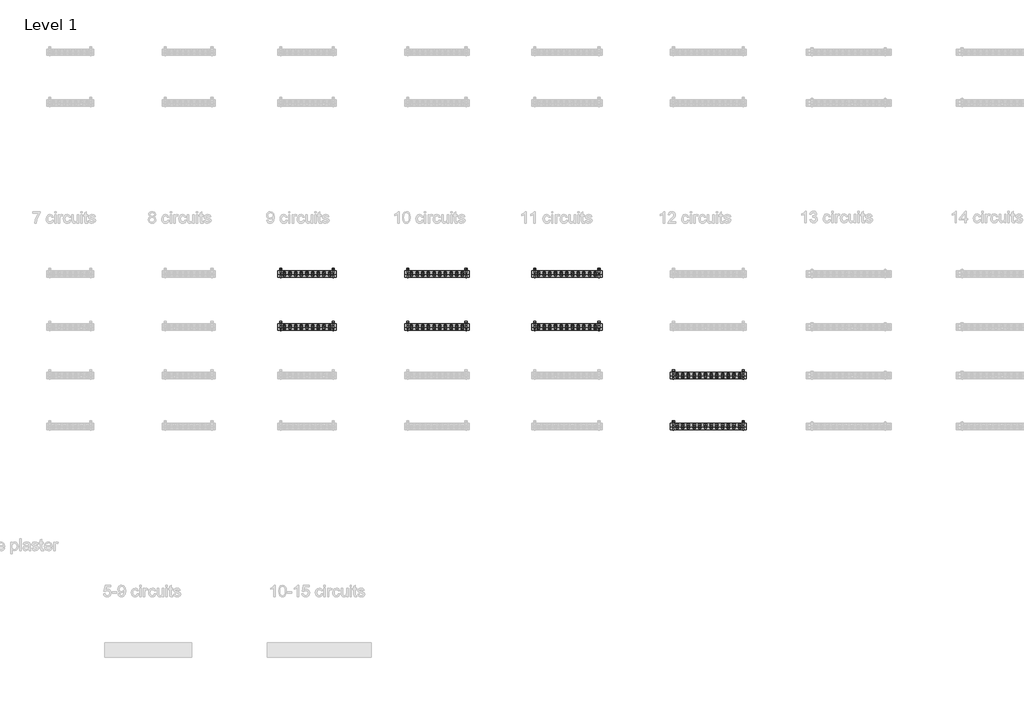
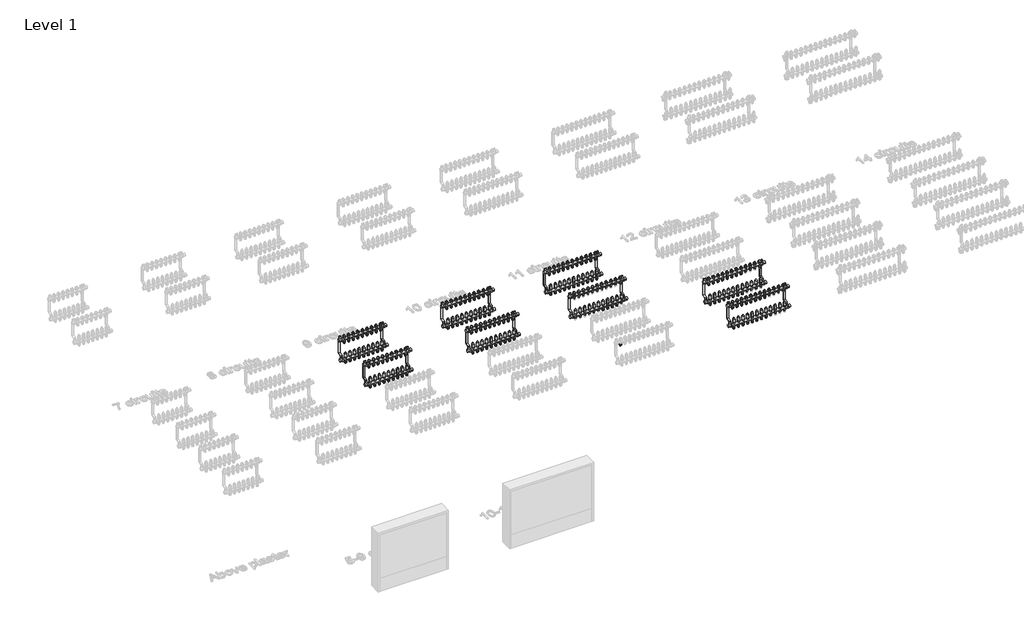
# One storey, part 4 of 23: 135 pipe fittings, 8 valves.
"""IFC4 building model written with IfcOpenShell, lengths in millimetres."""

from ifc_helpers import new_model, si_unit, origin, place, context, project, spatial, transform, mapped, element, save
from components import pipe_fitting_03c6499f, valve_f094e97b, valve_0359cbb0, valve_3285f891, valve_bdae45cc, valve_7e3f3941, valve_882e19a6, valve_5647343c, valve_f26d3ca9, valve_25ad0012, valve_28fdf4a6, valve_a7423dcf, valve_d379a65c, valve_24eee51e

model = new_model("IFC4")

# Units and contexts
model_context = context("Model", 3, world=origin())
ifc_project = project(units=[si_unit("LENGTHUNIT", "METRE", prefix="MILLI")], contexts=[model_context])

# Site, building, storey
site = spatial("IfcSite", under=ifc_project)
building = spatial("IfcBuilding", under=site)
storey = spatial("IfcBuildingStorey", under=building, Name="Level 1", Elevation=0.0)

# Pipe fittings
placement = place(None, origin())
pipe_fitting_shape = pipe_fitting_03c6499f(model_context)
element("IfcPipeFitting", 1, ObjectType="Euroconus screwing for multilayer pipes - Manifold FT : Euroconus screwing for multilayer pipes - Manifold FT", at=placement, inside=storey, context=model_context, shape_type="MappedRepresentation", body=[
    mapped(pipe_fitting_shape, transform((8575.9796862, -1164.6959314, 62.88733), x_axis=(0.0, 0.0, -1.0), y_axis=(0.0, 1.0000000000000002, 0.0), z_axis=(1.0000000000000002, 0.0, 0.0))),
])
element("IfcPipeFitting", 2, ObjectType="Euroconus screwing for multilayer pipes - Manifold FT : Euroconus screwing for multilayer pipes - Manifold FT", at=placement, inside=storey, context=model_context, shape_type="MappedRepresentation", body=[
    mapped(pipe_fitting_shape, transform((8526.9796862, -1164.6959314, 62.88733), x_axis=(0.0, 0.0, -1.0), y_axis=(0.0, 1.0000000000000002, 0.0), z_axis=(1.0000000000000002, 0.0, 0.0))),
])
element("IfcPipeFitting", 3, ObjectType="Euroconus screwing for multilayer pipes - Manifold FT : Euroconus screwing for multilayer pipes - Manifold FT", at=placement, inside=storey, context=model_context, shape_type="MappedRepresentation", body=[
    mapped(pipe_fitting_shape, transform((8477.9796862, -1164.6959314, 62.88733), x_axis=(0.0, 0.0, -1.0), y_axis=(0.0, 1.0000000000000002, 0.0), z_axis=(1.0000000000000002, 0.0, 0.0))),
])
element("IfcPipeFitting", 4, ObjectType="Euroconus screwing for multilayer pipes - Manifold FT : Euroconus screwing for multilayer pipes - Manifold FT", at=placement, inside=storey, context=model_context, shape_type="MappedRepresentation", body=[
    mapped(pipe_fitting_shape, transform((8428.9796862, -1164.6959314, 62.88733), x_axis=(0.0, 0.0, -1.0), y_axis=(0.0, 1.0000000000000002, 0.0), z_axis=(1.0000000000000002, 0.0, 0.0))),
])
element("IfcPipeFitting", 5, ObjectType="Euroconus screwing for multilayer pipes - Manifold FT : Euroconus screwing for multilayer pipes - Manifold FT", at=placement, inside=storey, context=model_context, shape_type="MappedRepresentation", body=[
    mapped(pipe_fitting_shape, transform((8379.9796862, -1164.6959314, 62.88733), x_axis=(0.0, 0.0, -1.0), y_axis=(0.0, 1.0000000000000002, 0.0), z_axis=(1.0000000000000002, 0.0, 0.0))),
])
element("IfcPipeFitting", 6, ObjectType="Euroconus screwing for multilayer pipes - Manifold FT : Euroconus screwing for multilayer pipes - Manifold FT", at=placement, inside=storey, context=model_context, shape_type="MappedRepresentation", body=[
    mapped(pipe_fitting_shape, transform((8330.9796862, -1164.6959314, 62.88733), x_axis=(0.0, 0.0, -1.0), y_axis=(0.0, 1.0000000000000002, 0.0), z_axis=(1.0000000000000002, 0.0, 0.0))),
])
element("IfcPipeFitting", 7, ObjectType="Euroconus screwing for multilayer pipes - Manifold FT : Euroconus screwing for multilayer pipes - Manifold FT", at=placement, inside=storey, context=model_context, shape_type="MappedRepresentation", body=[
    mapped(pipe_fitting_shape, transform((8281.9796862, -1164.6959314, 62.88733), x_axis=(0.0, 0.0, -1.0), y_axis=(0.0, 1.0000000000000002, 0.0), z_axis=(1.0000000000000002, 0.0, 0.0))),
])
element("IfcPipeFitting", 8, ObjectType="Euroconus screwing for multilayer pipes - Manifold FT : Euroconus screwing for multilayer pipes - Manifold FT", at=placement, inside=storey, context=model_context, shape_type="MappedRepresentation", body=[
    mapped(pipe_fitting_shape, transform((8624.9796862, -1164.6959314, 62.88733), x_axis=(0.0, 0.0, -1.0), y_axis=(0.0, 1.0000000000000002, 0.0), z_axis=(1.0000000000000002, 0.0, 0.0))),
])
element("IfcPipeFitting", 9, ObjectType="Euroconus screwing for multilayer pipes - Manifold FT : Euroconus screwing for multilayer pipes - Manifold FT", at=placement, inside=storey, context=model_context, shape_type="MappedRepresentation", body=[
    mapped(pipe_fitting_shape, transform((8575.9796862, -1139.6959314, 272.88733), x_axis=(0.0, 0.0, -1.0), y_axis=(0.0, 1.0000000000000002, 0.0), z_axis=(1.0000000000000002, 0.0, 0.0))),
])
element("IfcPipeFitting", 10, ObjectType="Euroconus screwing for multilayer pipes - Manifold FT : Euroconus screwing for multilayer pipes - Manifold FT", at=placement, inside=storey, context=model_context, shape_type="MappedRepresentation", body=[
    mapped(pipe_fitting_shape, transform((8526.9796862, -1139.6959314, 272.88733), x_axis=(0.0, 0.0, -1.0), y_axis=(0.0, 1.0000000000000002, 0.0), z_axis=(1.0000000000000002, 0.0, 0.0))),
])
element("IfcPipeFitting", 11, ObjectType="Euroconus screwing for multilayer pipes - Manifold FT : Euroconus screwing for multilayer pipes - Manifold FT", at=placement, inside=storey, context=model_context, shape_type="MappedRepresentation", body=[
    mapped(pipe_fitting_shape, transform((8477.9796862, -1139.6959314, 272.88733), x_axis=(0.0, 0.0, -1.0), y_axis=(0.0, 1.0000000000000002, 0.0), z_axis=(1.0000000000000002, 0.0, 0.0))),
])
element("IfcPipeFitting", 12, ObjectType="Euroconus screwing for multilayer pipes - Manifold FT : Euroconus screwing for multilayer pipes - Manifold FT", at=placement, inside=storey, context=model_context, shape_type="MappedRepresentation", body=[
    mapped(pipe_fitting_shape, transform((8428.9796862, -1139.6959314, 272.88733), x_axis=(0.0, 0.0, -1.0), y_axis=(0.0, 1.0000000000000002, 0.0), z_axis=(1.0000000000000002, 0.0, 0.0))),
])
element("IfcPipeFitting", 13, ObjectType="Euroconus screwing for multilayer pipes - Manifold FT : Euroconus screwing for multilayer pipes - Manifold FT", at=placement, inside=storey, context=model_context, shape_type="MappedRepresentation", body=[
    mapped(pipe_fitting_shape, transform((8379.9796862, -1139.6959314, 272.88733), x_axis=(0.0, 0.0, -1.0), y_axis=(0.0, 1.0000000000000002, 0.0), z_axis=(1.0000000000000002, 0.0, 0.0))),
])
element("IfcPipeFitting", 14, ObjectType="Euroconus screwing for multilayer pipes - Manifold FT : Euroconus screwing for multilayer pipes - Manifold FT", at=placement, inside=storey, context=model_context, shape_type="MappedRepresentation", body=[
    mapped(pipe_fitting_shape, transform((8330.9796862, -1139.6959314, 272.88733), x_axis=(0.0, 0.0, -1.0), y_axis=(0.0, 1.0000000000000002, 0.0), z_axis=(1.0000000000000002, 0.0, 0.0))),
])
element("IfcPipeFitting", 15, ObjectType="Euroconus screwing for multilayer pipes - Manifold FT : Euroconus screwing for multilayer pipes - Manifold FT", at=placement, inside=storey, context=model_context, shape_type="MappedRepresentation", body=[
    mapped(pipe_fitting_shape, transform((8281.9796862, -1139.6959314, 272.88733), x_axis=(0.0, 0.0, -1.0), y_axis=(0.0, 1.0000000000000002, 0.0), z_axis=(1.0000000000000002, 0.0, 0.0))),
])
element("IfcPipeFitting", 16, ObjectType="Euroconus screwing for multilayer pipes - Manifold FT : Euroconus screwing for multilayer pipes - Manifold FT", at=placement, inside=storey, context=model_context, shape_type="MappedRepresentation", body=[
    mapped(pipe_fitting_shape, transform((8624.9796862, -1139.6959314, 272.88733), x_axis=(0.0, 0.0, -1.0), y_axis=(0.0, 1.0000000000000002, 0.0), z_axis=(1.0000000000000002, 0.0, 0.0))),
])
element("IfcPipeFitting", 17, ObjectType="Euroconus screwing for multilayer pipes - Manifold FT : Euroconus screwing for multilayer pipes - Manifold FT", at=placement, inside=storey, context=model_context, shape_type="MappedRepresentation", body=[
    mapped(pipe_fitting_shape, transform((8232.9796862, -1164.6959314, 62.88733), x_axis=(0.0, 0.0, -1.0), y_axis=(0.0, 1.0000000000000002, 0.0), z_axis=(1.0000000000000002, 0.0, 0.0))),
])
element("IfcPipeFitting", 18, ObjectType="Euroconus screwing for multilayer pipes - Manifold FT : Euroconus screwing for multilayer pipes - Manifold FT", at=placement, inside=storey, context=model_context, shape_type="MappedRepresentation", body=[
    mapped(pipe_fitting_shape, transform((8232.9796862, -1139.6959314, 272.88733), x_axis=(0.0, 0.0, -1.0), y_axis=(0.0, 1.0000000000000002, 0.0), z_axis=(1.0000000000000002, 0.0, 0.0))),
])
element("IfcPipeFitting", 19, ObjectType="Euroconus screwing for multilayer pipes - Manifold FT : Euroconus screwing for multilayer pipes - Manifold FT", at=placement, inside=storey, context=model_context, shape_type="MappedRepresentation", body=[
    mapped(pipe_fitting_shape, transform((9725.8685751, -1164.6959314, 62.88733), x_axis=(0.0, 0.0, -1.0), y_axis=(0.0, 1.0000000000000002, 0.0), z_axis=(1.0000000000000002, 0.0, 0.0))),
])
element("IfcPipeFitting", 20, ObjectType="Euroconus screwing for multilayer pipes - Manifold FT : Euroconus screwing for multilayer pipes - Manifold FT", at=placement, inside=storey, context=model_context, shape_type="MappedRepresentation", body=[
    mapped(pipe_fitting_shape, transform((9676.7574639, -1164.6959314, 62.88733), x_axis=(0.0, 0.0, -1.0), y_axis=(0.0, 1.0000000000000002, 0.0), z_axis=(1.0000000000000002, 0.0, 0.0))),
])
element("IfcPipeFitting", 21, ObjectType="Euroconus screwing for multilayer pipes - Manifold FT : Euroconus screwing for multilayer pipes - Manifold FT", at=placement, inside=storey, context=model_context, shape_type="MappedRepresentation", body=[
    mapped(pipe_fitting_shape, transform((9627.6463528, -1164.6959314, 62.88733), x_axis=(0.0, 0.0, -1.0), y_axis=(0.0, 1.0000000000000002, 0.0), z_axis=(1.0000000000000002, 0.0, 0.0))),
])
element("IfcPipeFitting", 22, ObjectType="Euroconus screwing for multilayer pipes - Manifold FT : Euroconus screwing for multilayer pipes - Manifold FT", at=placement, inside=storey, context=model_context, shape_type="MappedRepresentation", body=[
    mapped(pipe_fitting_shape, transform((9578.5352417, -1164.6959314, 62.88733), x_axis=(0.0, 0.0, -1.0), y_axis=(0.0, 1.0000000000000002, 0.0), z_axis=(1.0000000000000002, 0.0, 0.0))),
])
element("IfcPipeFitting", 23, ObjectType="Euroconus screwing for multilayer pipes - Manifold FT : Euroconus screwing for multilayer pipes - Manifold FT", at=placement, inside=storey, context=model_context, shape_type="MappedRepresentation", body=[
    mapped(pipe_fitting_shape, transform((9529.4241306, -1164.6959314, 62.88733), x_axis=(0.0, 0.0, -1.0), y_axis=(0.0, 1.0000000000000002, 0.0), z_axis=(1.0000000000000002, 0.0, 0.0))),
])
element("IfcPipeFitting", 24, ObjectType="Euroconus screwing for multilayer pipes - Manifold FT : Euroconus screwing for multilayer pipes - Manifold FT", at=placement, inside=storey, context=model_context, shape_type="MappedRepresentation", body=[
    mapped(pipe_fitting_shape, transform((9480.3130195, -1164.6959314, 62.88733), x_axis=(0.0, 0.0, -1.0), y_axis=(0.0, 1.0000000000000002, 0.0), z_axis=(1.0000000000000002, 0.0, 0.0))),
])
element("IfcPipeFitting", 25, ObjectType="Euroconus screwing for multilayer pipes - Manifold FT : Euroconus screwing for multilayer pipes - Manifold FT", at=placement, inside=storey, context=model_context, shape_type="MappedRepresentation", body=[
    mapped(pipe_fitting_shape, transform((9431.2019084, -1164.6959314, 62.88733), x_axis=(0.0, 0.0, -1.0), y_axis=(0.0, 1.0000000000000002, 0.0), z_axis=(1.0000000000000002, 0.0, 0.0))),
])
element("IfcPipeFitting", 26, ObjectType="Euroconus screwing for multilayer pipes - Manifold FT : Euroconus screwing for multilayer pipes - Manifold FT", at=placement, inside=storey, context=model_context, shape_type="MappedRepresentation", body=[
    mapped(pipe_fitting_shape, transform((9382.0907973, -1164.6959314, 62.88733), x_axis=(0.0, 0.0, -1.0), y_axis=(0.0, 1.0000000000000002, 0.0), z_axis=(1.0000000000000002, 0.0, 0.0))),
])
element("IfcPipeFitting", 27, ObjectType="Euroconus screwing for multilayer pipes - Manifold FT : Euroconus screwing for multilayer pipes - Manifold FT", at=placement, inside=storey, context=model_context, shape_type="MappedRepresentation", body=[
    mapped(pipe_fitting_shape, transform((9774.9796862, -1164.6959314, 62.88733), x_axis=(0.0, 0.0, -1.0), y_axis=(0.0, 1.0000000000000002, 0.0), z_axis=(1.0000000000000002, 0.0, 0.0))),
])
element("IfcPipeFitting", 28, ObjectType="Euroconus screwing for multilayer pipes - Manifold FT : Euroconus screwing for multilayer pipes - Manifold FT", at=placement, inside=storey, context=model_context, shape_type="MappedRepresentation", body=[
    mapped(pipe_fitting_shape, transform((9725.8685751, -1139.6959314, 272.88733), x_axis=(0.0, 0.0, -1.0), y_axis=(0.0, 1.0000000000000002, 0.0), z_axis=(1.0000000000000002, 0.0, 0.0))),
])
element("IfcPipeFitting", 29, ObjectType="Euroconus screwing for multilayer pipes - Manifold FT : Euroconus screwing for multilayer pipes - Manifold FT", at=placement, inside=storey, context=model_context, shape_type="MappedRepresentation", body=[
    mapped(pipe_fitting_shape, transform((9676.7574639, -1139.6959314, 272.88733), x_axis=(0.0, 0.0, -1.0), y_axis=(0.0, 1.0000000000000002, 0.0), z_axis=(1.0000000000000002, 0.0, 0.0))),
])
element("IfcPipeFitting", 30, ObjectType="Euroconus screwing for multilayer pipes - Manifold FT : Euroconus screwing for multilayer pipes - Manifold FT", at=placement, inside=storey, context=model_context, shape_type="MappedRepresentation", body=[
    mapped(pipe_fitting_shape, transform((9627.6463528, -1139.6959314, 272.88733), x_axis=(0.0, 0.0, -1.0), y_axis=(0.0, 1.0000000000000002, 0.0), z_axis=(1.0000000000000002, 0.0, 0.0))),
])
element("IfcPipeFitting", 31, ObjectType="Euroconus screwing for multilayer pipes - Manifold FT : Euroconus screwing for multilayer pipes - Manifold FT", at=placement, inside=storey, context=model_context, shape_type="MappedRepresentation", body=[
    mapped(pipe_fitting_shape, transform((9578.5352417, -1139.6959314, 272.88733), x_axis=(0.0, 0.0, -1.0), y_axis=(0.0, 1.0000000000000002, 0.0), z_axis=(1.0000000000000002, 0.0, 0.0))),
])
element("IfcPipeFitting", 32, ObjectType="Euroconus screwing for multilayer pipes - Manifold FT : Euroconus screwing for multilayer pipes - Manifold FT", at=placement, inside=storey, context=model_context, shape_type="MappedRepresentation", body=[
    mapped(pipe_fitting_shape, transform((9529.4241306, -1139.6959314, 272.88733), x_axis=(0.0, 0.0, -1.0), y_axis=(0.0, 1.0000000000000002, 0.0), z_axis=(1.0000000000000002, 0.0, 0.0))),
])
element("IfcPipeFitting", 33, ObjectType="Euroconus screwing for multilayer pipes - Manifold FT : Euroconus screwing for multilayer pipes - Manifold FT", at=placement, inside=storey, context=model_context, shape_type="MappedRepresentation", body=[
    mapped(pipe_fitting_shape, transform((9480.3130195, -1139.6959314, 272.88733), x_axis=(0.0, 0.0, -1.0), y_axis=(0.0, 1.0000000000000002, 0.0), z_axis=(1.0000000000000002, 0.0, 0.0))),
])
element("IfcPipeFitting", 34, ObjectType="Euroconus screwing for multilayer pipes - Manifold FT : Euroconus screwing for multilayer pipes - Manifold FT", at=placement, inside=storey, context=model_context, shape_type="MappedRepresentation", body=[
    mapped(pipe_fitting_shape, transform((9431.2019084, -1139.6959314, 272.88733), x_axis=(0.0, 0.0, -1.0), y_axis=(0.0, 1.0000000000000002, 0.0), z_axis=(1.0000000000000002, 0.0, 0.0))),
])
element("IfcPipeFitting", 35, ObjectType="Euroconus screwing for multilayer pipes - Manifold FT : Euroconus screwing for multilayer pipes - Manifold FT", at=placement, inside=storey, context=model_context, shape_type="MappedRepresentation", body=[
    mapped(pipe_fitting_shape, transform((9382.0907973, -1139.6959314, 272.88733), x_axis=(0.0, 0.0, -1.0), y_axis=(0.0, 1.0000000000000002, 0.0), z_axis=(1.0000000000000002, 0.0, 0.0))),
])
element("IfcPipeFitting", 36, ObjectType="Euroconus screwing for multilayer pipes - Manifold FT : Euroconus screwing for multilayer pipes - Manifold FT", at=placement, inside=storey, context=model_context, shape_type="MappedRepresentation", body=[
    mapped(pipe_fitting_shape, transform((9774.9796862, -1139.6959314, 272.88733), x_axis=(0.0, 0.0, -1.0), y_axis=(0.0, 1.0000000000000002, 0.0), z_axis=(1.0000000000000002, 0.0, 0.0))),
])
element("IfcPipeFitting", 37, ObjectType="Euroconus screwing for multilayer pipes - Manifold FT : Euroconus screwing for multilayer pipes - Manifold FT", at=placement, inside=storey, context=model_context, shape_type="MappedRepresentation", body=[
    mapped(pipe_fitting_shape, transform((9332.9796862, -1164.6959314, 62.88733), x_axis=(0.0, 0.0, -1.0), y_axis=(0.0, 1.0000000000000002, 0.0), z_axis=(1.0000000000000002, 0.0, 0.0))),
])
element("IfcPipeFitting", 38, ObjectType="Euroconus screwing for multilayer pipes - Manifold FT : Euroconus screwing for multilayer pipes - Manifold FT", at=placement, inside=storey, context=model_context, shape_type="MappedRepresentation", body=[
    mapped(pipe_fitting_shape, transform((9332.9796862, -1139.6959314, 272.88733), x_axis=(0.0, 0.0, -1.0), y_axis=(0.0, 1.0000000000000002, 0.0), z_axis=(1.0000000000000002, 0.0, 0.0))),
])
element("IfcPipeFitting", 39, ObjectType="Euroconus screwing for multilayer pipes - Manifold FT : Euroconus screwing for multilayer pipes - Manifold FT", at=placement, inside=storey, context=model_context, shape_type="MappedRepresentation", body=[
    mapped(pipe_fitting_shape, transform((10875.7796862, -1164.6959314, 62.88733), x_axis=(0.0, 0.0, -1.0), y_axis=(0.0, 1.0000000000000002, 0.0), z_axis=(1.0000000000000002, 0.0, 0.0))),
])
element("IfcPipeFitting", 40, ObjectType="Euroconus screwing for multilayer pipes - Manifold FT : Euroconus screwing for multilayer pipes - Manifold FT", at=placement, inside=storey, context=model_context, shape_type="MappedRepresentation", body=[
    mapped(pipe_fitting_shape, transform((10826.5796862, -1164.6959314, 62.88733), x_axis=(0.0, 0.0, -1.0), y_axis=(0.0, 1.0000000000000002, 0.0), z_axis=(1.0000000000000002, 0.0, 0.0))),
])
element("IfcPipeFitting", 41, ObjectType="Euroconus screwing for multilayer pipes - Manifold FT : Euroconus screwing for multilayer pipes - Manifold FT", at=placement, inside=storey, context=model_context, shape_type="MappedRepresentation", body=[
    mapped(pipe_fitting_shape, transform((10777.3796862, -1164.6959314, 62.88733), x_axis=(0.0, 0.0, -1.0), y_axis=(0.0, 1.0000000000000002, 0.0), z_axis=(1.0000000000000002, 0.0, 0.0))),
])
element("IfcPipeFitting", 42, ObjectType="Euroconus screwing for multilayer pipes - Manifold FT : Euroconus screwing for multilayer pipes - Manifold FT", at=placement, inside=storey, context=model_context, shape_type="MappedRepresentation", body=[
    mapped(pipe_fitting_shape, transform((10728.1796862, -1164.6959314, 62.88733), x_axis=(0.0, 0.0, -1.0), y_axis=(0.0, 1.0000000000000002, 0.0), z_axis=(1.0000000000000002, 0.0, 0.0))),
])
element("IfcPipeFitting", 43, ObjectType="Euroconus screwing for multilayer pipes - Manifold FT : Euroconus screwing for multilayer pipes - Manifold FT", at=placement, inside=storey, context=model_context, shape_type="MappedRepresentation", body=[
    mapped(pipe_fitting_shape, transform((10678.9796862, -1164.6959314, 62.88733), x_axis=(0.0, 0.0, -1.0), y_axis=(0.0, 1.0000000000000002, 0.0), z_axis=(1.0000000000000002, 0.0, 0.0))),
])
element("IfcPipeFitting", 44, ObjectType="Euroconus screwing for multilayer pipes - Manifold FT : Euroconus screwing for multilayer pipes - Manifold FT", at=placement, inside=storey, context=model_context, shape_type="MappedRepresentation", body=[
    mapped(pipe_fitting_shape, transform((10629.7796862, -1164.6959314, 62.88733), x_axis=(0.0, 0.0, -1.0), y_axis=(0.0, 1.0000000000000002, 0.0), z_axis=(1.0000000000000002, 0.0, 0.0))),
])
element("IfcPipeFitting", 45, ObjectType="Euroconus screwing for multilayer pipes - Manifold FT : Euroconus screwing for multilayer pipes - Manifold FT", at=placement, inside=storey, context=model_context, shape_type="MappedRepresentation", body=[
    mapped(pipe_fitting_shape, transform((10580.5796862, -1164.6959314, 62.88733), x_axis=(0.0, 0.0, -1.0), y_axis=(0.0, 1.0000000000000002, 0.0), z_axis=(1.0000000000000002, 0.0, 0.0))),
])
element("IfcPipeFitting", 46, ObjectType="Euroconus screwing for multilayer pipes - Manifold FT : Euroconus screwing for multilayer pipes - Manifold FT", at=placement, inside=storey, context=model_context, shape_type="MappedRepresentation", body=[
    mapped(pipe_fitting_shape, transform((10531.3796862, -1164.6959314, 62.88733), x_axis=(0.0, 0.0, -1.0), y_axis=(0.0, 1.0000000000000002, 0.0), z_axis=(1.0000000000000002, 0.0, 0.0))),
])
element("IfcPipeFitting", 47, ObjectType="Euroconus screwing for multilayer pipes - Manifold FT : Euroconus screwing for multilayer pipes - Manifold FT", at=placement, inside=storey, context=model_context, shape_type="MappedRepresentation", body=[
    mapped(pipe_fitting_shape, transform((10482.1796862, -1164.6959314, 62.88733), x_axis=(0.0, 0.0, -1.0), y_axis=(0.0, 1.0000000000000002, 0.0), z_axis=(1.0000000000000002, 0.0, 0.0))),
])
element("IfcPipeFitting", 48, ObjectType="Euroconus screwing for multilayer pipes - Manifold FT : Euroconus screwing for multilayer pipes - Manifold FT", at=placement, inside=storey, context=model_context, shape_type="MappedRepresentation", body=[
    mapped(pipe_fitting_shape, transform((10924.9796862, -1164.6959314, 62.88733), x_axis=(0.0, 0.0, -1.0), y_axis=(0.0, 1.0000000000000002, 0.0), z_axis=(1.0000000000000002, 0.0, 0.0))),
])
element("IfcPipeFitting", 49, ObjectType="Euroconus screwing for multilayer pipes - Manifold FT : Euroconus screwing for multilayer pipes - Manifold FT", at=placement, inside=storey, context=model_context, shape_type="MappedRepresentation", body=[
    mapped(pipe_fitting_shape, transform((10875.7796862, -1139.6959314, 272.88733), x_axis=(0.0, 0.0, -1.0), y_axis=(0.0, 1.0000000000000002, 0.0), z_axis=(1.0000000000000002, 0.0, 0.0))),
])
element("IfcPipeFitting", 50, ObjectType="Euroconus screwing for multilayer pipes - Manifold FT : Euroconus screwing for multilayer pipes - Manifold FT", at=placement, inside=storey, context=model_context, shape_type="MappedRepresentation", body=[
    mapped(pipe_fitting_shape, transform((10826.5796862, -1139.6959314, 272.88733), x_axis=(0.0, 0.0, -1.0), y_axis=(0.0, 1.0000000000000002, 0.0), z_axis=(1.0000000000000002, 0.0, 0.0))),
])
element("IfcPipeFitting", 51, ObjectType="Euroconus screwing for multilayer pipes - Manifold FT : Euroconus screwing for multilayer pipes - Manifold FT", at=placement, inside=storey, context=model_context, shape_type="MappedRepresentation", body=[
    mapped(pipe_fitting_shape, transform((10777.3796862, -1139.6959314, 272.88733), x_axis=(0.0, 0.0, -1.0), y_axis=(0.0, 1.0000000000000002, 0.0), z_axis=(1.0000000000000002, 0.0, 0.0))),
])
element("IfcPipeFitting", 52, ObjectType="Euroconus screwing for multilayer pipes - Manifold FT : Euroconus screwing for multilayer pipes - Manifold FT", at=placement, inside=storey, context=model_context, shape_type="MappedRepresentation", body=[
    mapped(pipe_fitting_shape, transform((10728.1796862, -1139.6959314, 272.88733), x_axis=(0.0, 0.0, -1.0), y_axis=(0.0, 1.0000000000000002, 0.0), z_axis=(1.0000000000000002, 0.0, 0.0))),
])
element("IfcPipeFitting", 53, ObjectType="Euroconus screwing for multilayer pipes - Manifold FT : Euroconus screwing for multilayer pipes - Manifold FT", at=placement, inside=storey, context=model_context, shape_type="MappedRepresentation", body=[
    mapped(pipe_fitting_shape, transform((10678.9796862, -1139.6959314, 272.88733), x_axis=(0.0, 0.0, -1.0), y_axis=(0.0, 1.0000000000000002, 0.0), z_axis=(1.0000000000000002, 0.0, 0.0))),
])
element("IfcPipeFitting", 54, ObjectType="Euroconus screwing for multilayer pipes - Manifold FT : Euroconus screwing for multilayer pipes - Manifold FT", at=placement, inside=storey, context=model_context, shape_type="MappedRepresentation", body=[
    mapped(pipe_fitting_shape, transform((10629.7796862, -1139.6959314, 272.88733), x_axis=(0.0, 0.0, -1.0), y_axis=(0.0, 1.0000000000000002, 0.0), z_axis=(1.0000000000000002, 0.0, 0.0))),
])
element("IfcPipeFitting", 55, ObjectType="Euroconus screwing for multilayer pipes - Manifold FT : Euroconus screwing for multilayer pipes - Manifold FT", at=placement, inside=storey, context=model_context, shape_type="MappedRepresentation", body=[
    mapped(pipe_fitting_shape, transform((10580.5796862, -1139.6959314, 272.88733), x_axis=(0.0, 0.0, -1.0), y_axis=(0.0, 1.0000000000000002, 0.0), z_axis=(1.0000000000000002, 0.0, 0.0))),
])
element("IfcPipeFitting", 56, ObjectType="Euroconus screwing for multilayer pipes - Manifold FT : Euroconus screwing for multilayer pipes - Manifold FT", at=placement, inside=storey, context=model_context, shape_type="MappedRepresentation", body=[
    mapped(pipe_fitting_shape, transform((10531.3796862, -1139.6959314, 272.88733), x_axis=(0.0, 0.0, -1.0), y_axis=(0.0, 1.0000000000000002, 0.0), z_axis=(1.0000000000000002, 0.0, 0.0))),
])
element("IfcPipeFitting", 57, ObjectType="Euroconus screwing for multilayer pipes - Manifold FT : Euroconus screwing for multilayer pipes - Manifold FT", at=placement, inside=storey, context=model_context, shape_type="MappedRepresentation", body=[
    mapped(pipe_fitting_shape, transform((10482.1796862, -1139.6959314, 272.88733), x_axis=(0.0, 0.0, -1.0), y_axis=(0.0, 1.0000000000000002, 0.0), z_axis=(1.0000000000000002, 0.0, 0.0))),
])
element("IfcPipeFitting", 58, ObjectType="Euroconus screwing for multilayer pipes - Manifold FT : Euroconus screwing for multilayer pipes - Manifold FT", at=placement, inside=storey, context=model_context, shape_type="MappedRepresentation", body=[
    mapped(pipe_fitting_shape, transform((10924.9796862, -1139.6959314, 272.88733), x_axis=(0.0, 0.0, -1.0), y_axis=(0.0, 1.0000000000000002, 0.0), z_axis=(1.0000000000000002, 0.0, 0.0))),
])
element("IfcPipeFitting", 59, ObjectType="Euroconus screwing for multilayer pipes - Manifold FT : Euroconus screwing for multilayer pipes - Manifold FT", at=placement, inside=storey, context=model_context, shape_type="MappedRepresentation", body=[
    mapped(pipe_fitting_shape, transform((10432.9796862, -1164.6959314, 62.88733), x_axis=(0.0, 0.0, -1.0), y_axis=(0.0, 1.0000000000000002, 0.0), z_axis=(1.0000000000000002, 0.0, 0.0))),
])
element("IfcPipeFitting", 60, ObjectType="Euroconus screwing for multilayer pipes - Manifold FT : Euroconus screwing for multilayer pipes - Manifold FT", at=placement, inside=storey, context=model_context, shape_type="MappedRepresentation", body=[
    mapped(pipe_fitting_shape, transform((10432.9796862, -1139.6959314, 272.88733), x_axis=(0.0, 0.0, -1.0), y_axis=(0.0, 1.0000000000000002, 0.0), z_axis=(1.0000000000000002, 0.0, 0.0))),
])
element("IfcPipeFitting", 61, ObjectType="Euroconus screwing for multilayer pipes - Manifold FT : Euroconus screwing for multilayer pipes - Manifold FT", at=placement, inside=storey, context=model_context, shape_type="MappedRepresentation", body=[
    mapped(pipe_fitting_shape, transform((8575.9796862, -1624.6959314, 62.88733), x_axis=(0.0, 0.0, -1.0), y_axis=(0.0, 1.0000000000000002, 0.0), z_axis=(1.0000000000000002, 0.0, 0.0))),
])
element("IfcPipeFitting", 62, ObjectType="Euroconus screwing for multilayer pipes - Manifold FT : Euroconus screwing for multilayer pipes - Manifold FT", at=placement, inside=storey, context=model_context, shape_type="MappedRepresentation", body=[
    mapped(pipe_fitting_shape, transform((8526.9796862, -1624.6959314, 62.88733), x_axis=(0.0, 0.0, -1.0), y_axis=(0.0, 1.0000000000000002, 0.0), z_axis=(1.0000000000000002, 0.0, 0.0))),
])
element("IfcPipeFitting", 63, ObjectType="Euroconus screwing for multilayer pipes - Manifold FT : Euroconus screwing for multilayer pipes - Manifold FT", at=placement, inside=storey, context=model_context, shape_type="MappedRepresentation", body=[
    mapped(pipe_fitting_shape, transform((8477.9796862, -1624.6959314, 62.88733), x_axis=(0.0, 0.0, -1.0), y_axis=(0.0, 1.0000000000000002, 0.0), z_axis=(1.0000000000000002, 0.0, 0.0))),
])
element("IfcPipeFitting", 64, ObjectType="Euroconus screwing for multilayer pipes - Manifold FT : Euroconus screwing for multilayer pipes - Manifold FT", at=placement, inside=storey, context=model_context, shape_type="MappedRepresentation", body=[
    mapped(pipe_fitting_shape, transform((8428.9796862, -1624.6959314, 62.88733), x_axis=(0.0, 0.0, -1.0), y_axis=(0.0, 1.0000000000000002, 0.0), z_axis=(1.0000000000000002, 0.0, 0.0))),
])
element("IfcPipeFitting", 65, ObjectType="Euroconus screwing for multilayer pipes - Manifold FT : Euroconus screwing for multilayer pipes - Manifold FT", at=placement, inside=storey, context=model_context, shape_type="MappedRepresentation", body=[
    mapped(pipe_fitting_shape, transform((8379.9796862, -1624.6959314, 62.88733), x_axis=(0.0, 0.0, -1.0), y_axis=(0.0, 1.0000000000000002, 0.0), z_axis=(1.0000000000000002, 0.0, 0.0))),
])
element("IfcPipeFitting", 66, ObjectType="Euroconus screwing for multilayer pipes - Manifold FT : Euroconus screwing for multilayer pipes - Manifold FT", at=placement, inside=storey, context=model_context, shape_type="MappedRepresentation", body=[
    mapped(pipe_fitting_shape, transform((8330.9796862, -1624.6959314, 62.88733), x_axis=(0.0, 0.0, -1.0), y_axis=(0.0, 1.0000000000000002, 0.0), z_axis=(1.0000000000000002, 0.0, 0.0))),
])
element("IfcPipeFitting", 67, ObjectType="Euroconus screwing for multilayer pipes - Manifold FT : Euroconus screwing for multilayer pipes - Manifold FT", at=placement, inside=storey, context=model_context, shape_type="MappedRepresentation", body=[
    mapped(pipe_fitting_shape, transform((8281.9796862, -1624.6959314, 62.88733), x_axis=(0.0, 0.0, -1.0), y_axis=(0.0, 1.0000000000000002, 0.0), z_axis=(1.0000000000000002, 0.0, 0.0))),
])
element("IfcPipeFitting", 68, ObjectType="Euroconus screwing for multilayer pipes - Manifold FT : Euroconus screwing for multilayer pipes - Manifold FT", at=placement, inside=storey, context=model_context, shape_type="MappedRepresentation", body=[
    mapped(pipe_fitting_shape, transform((8624.9796862, -1624.6959314, 62.88733), x_axis=(0.0, 0.0, -1.0), y_axis=(0.0, 1.0000000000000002, 0.0), z_axis=(1.0000000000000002, 0.0, 0.0))),
])
element("IfcPipeFitting", 69, ObjectType="Euroconus screwing for multilayer pipes - Manifold FT : Euroconus screwing for multilayer pipes - Manifold FT", at=placement, inside=storey, context=model_context, shape_type="MappedRepresentation", body=[
    mapped(pipe_fitting_shape, transform((8575.9796862, -1599.6959314, 272.88733), x_axis=(0.0, 0.0, -1.0), y_axis=(0.0, 1.0000000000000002, 0.0), z_axis=(1.0000000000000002, 0.0, 0.0))),
])
element("IfcPipeFitting", 70, ObjectType="Euroconus screwing for multilayer pipes - Manifold FT : Euroconus screwing for multilayer pipes - Manifold FT", at=placement, inside=storey, context=model_context, shape_type="MappedRepresentation", body=[
    mapped(pipe_fitting_shape, transform((8526.9796862, -1599.6959314, 272.88733), x_axis=(0.0, 0.0, -1.0), y_axis=(0.0, 1.0000000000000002, 0.0), z_axis=(1.0000000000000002, 0.0, 0.0))),
])
element("IfcPipeFitting", 71, ObjectType="Euroconus screwing for multilayer pipes - Manifold FT : Euroconus screwing for multilayer pipes - Manifold FT", at=placement, inside=storey, context=model_context, shape_type="MappedRepresentation", body=[
    mapped(pipe_fitting_shape, transform((8477.9796862, -1599.6959314, 272.88733), x_axis=(0.0, 0.0, -1.0), y_axis=(0.0, 1.0000000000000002, 0.0), z_axis=(1.0000000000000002, 0.0, 0.0))),
])
element("IfcPipeFitting", 72, ObjectType="Euroconus screwing for multilayer pipes - Manifold FT : Euroconus screwing for multilayer pipes - Manifold FT", at=placement, inside=storey, context=model_context, shape_type="MappedRepresentation", body=[
    mapped(pipe_fitting_shape, transform((8428.9796862, -1599.6959314, 272.88733), x_axis=(0.0, 0.0, -1.0), y_axis=(0.0, 1.0000000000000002, 0.0), z_axis=(1.0000000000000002, 0.0, 0.0))),
])
element("IfcPipeFitting", 73, ObjectType="Euroconus screwing for multilayer pipes - Manifold FT : Euroconus screwing for multilayer pipes - Manifold FT", at=placement, inside=storey, context=model_context, shape_type="MappedRepresentation", body=[
    mapped(pipe_fitting_shape, transform((8379.9796862, -1599.6959314, 272.88733), x_axis=(0.0, 0.0, -1.0), y_axis=(0.0, 1.0000000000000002, 0.0), z_axis=(1.0000000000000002, 0.0, 0.0))),
])
element("IfcPipeFitting", 74, ObjectType="Euroconus screwing for multilayer pipes - Manifold FT : Euroconus screwing for multilayer pipes - Manifold FT", at=placement, inside=storey, context=model_context, shape_type="MappedRepresentation", body=[
    mapped(pipe_fitting_shape, transform((8330.9796862, -1599.6959314, 272.88733), x_axis=(0.0, 0.0, -1.0), y_axis=(0.0, 1.0000000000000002, 0.0), z_axis=(1.0000000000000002, 0.0, 0.0))),
])
element("IfcPipeFitting", 75, ObjectType="Euroconus screwing for multilayer pipes - Manifold FT : Euroconus screwing for multilayer pipes - Manifold FT", at=placement, inside=storey, context=model_context, shape_type="MappedRepresentation", body=[
    mapped(pipe_fitting_shape, transform((8281.9796862, -1599.6959314, 272.88733), x_axis=(0.0, 0.0, -1.0), y_axis=(0.0, 1.0000000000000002, 0.0), z_axis=(1.0000000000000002, 0.0, 0.0))),
])
element("IfcPipeFitting", 76, ObjectType="Euroconus screwing for multilayer pipes - Manifold FT : Euroconus screwing for multilayer pipes - Manifold FT", at=placement, inside=storey, context=model_context, shape_type="MappedRepresentation", body=[
    mapped(pipe_fitting_shape, transform((8624.9796862, -1599.6959314, 272.88733), x_axis=(0.0, 0.0, -1.0), y_axis=(0.0, 1.0000000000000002, 0.0), z_axis=(1.0000000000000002, 0.0, 0.0))),
])
element("IfcPipeFitting", 77, ObjectType="Euroconus screwing for multilayer pipes - Manifold FT : Euroconus screwing for multilayer pipes - Manifold FT", at=placement, inside=storey, context=model_context, shape_type="MappedRepresentation", body=[
    mapped(pipe_fitting_shape, transform((8232.9796862, -1624.6959314, 62.88733), x_axis=(0.0, 0.0, -1.0), y_axis=(0.0, 1.0000000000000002, 0.0), z_axis=(1.0000000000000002, 0.0, 0.0))),
])
element("IfcPipeFitting", 78, ObjectType="Euroconus screwing for multilayer pipes - Manifold FT : Euroconus screwing for multilayer pipes - Manifold FT", at=placement, inside=storey, context=model_context, shape_type="MappedRepresentation", body=[
    mapped(pipe_fitting_shape, transform((8232.9796862, -1599.6959314, 272.88733), x_axis=(0.0, 0.0, -1.0), y_axis=(0.0, 1.0000000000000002, 0.0), z_axis=(1.0000000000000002, 0.0, 0.0))),
])
element("IfcPipeFitting", 79, ObjectType="Euroconus screwing for multilayer pipes - Manifold FT : Euroconus screwing for multilayer pipes - Manifold FT", at=placement, inside=storey, context=model_context, shape_type="MappedRepresentation", body=[
    mapped(pipe_fitting_shape, transform((9725.8685751, -1624.6959314, 62.88733), x_axis=(0.0, 0.0, -1.0), y_axis=(0.0, 1.0000000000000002, 0.0), z_axis=(1.0000000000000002, 0.0, 0.0))),
])
element("IfcPipeFitting", 80, ObjectType="Euroconus screwing for multilayer pipes - Manifold FT : Euroconus screwing for multilayer pipes - Manifold FT", at=placement, inside=storey, context=model_context, shape_type="MappedRepresentation", body=[
    mapped(pipe_fitting_shape, transform((9676.7574639, -1624.6959314, 62.88733), x_axis=(0.0, 0.0, -1.0), y_axis=(0.0, 1.0000000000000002, 0.0), z_axis=(1.0000000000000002, 0.0, 0.0))),
])
element("IfcPipeFitting", 81, ObjectType="Euroconus screwing for multilayer pipes - Manifold FT : Euroconus screwing for multilayer pipes - Manifold FT", at=placement, inside=storey, context=model_context, shape_type="MappedRepresentation", body=[
    mapped(pipe_fitting_shape, transform((9627.6463528, -1624.6959314, 62.88733), x_axis=(0.0, 0.0, -1.0), y_axis=(0.0, 1.0000000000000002, 0.0), z_axis=(1.0000000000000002, 0.0, 0.0))),
])
element("IfcPipeFitting", 82, ObjectType="Euroconus screwing for multilayer pipes - Manifold FT : Euroconus screwing for multilayer pipes - Manifold FT", at=placement, inside=storey, context=model_context, shape_type="MappedRepresentation", body=[
    mapped(pipe_fitting_shape, transform((9578.5352417, -1624.6959314, 62.88733), x_axis=(0.0, 0.0, -1.0), y_axis=(0.0, 1.0000000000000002, 0.0), z_axis=(1.0000000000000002, 0.0, 0.0))),
])
element("IfcPipeFitting", 83, ObjectType="Euroconus screwing for multilayer pipes - Manifold FT : Euroconus screwing for multilayer pipes - Manifold FT", at=placement, inside=storey, context=model_context, shape_type="MappedRepresentation", body=[
    mapped(pipe_fitting_shape, transform((9529.4241306, -1624.6959314, 62.88733), x_axis=(0.0, 0.0, -1.0), y_axis=(0.0, 1.0000000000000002, 0.0), z_axis=(1.0000000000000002, 0.0, 0.0))),
])
element("IfcPipeFitting", 84, ObjectType="Euroconus screwing for multilayer pipes - Manifold FT : Euroconus screwing for multilayer pipes - Manifold FT", at=placement, inside=storey, context=model_context, shape_type="MappedRepresentation", body=[
    mapped(pipe_fitting_shape, transform((9480.3130195, -1624.6959314, 62.88733), x_axis=(0.0, 0.0, -1.0), y_axis=(0.0, 1.0000000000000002, 0.0), z_axis=(1.0000000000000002, 0.0, 0.0))),
])
element("IfcPipeFitting", 85, ObjectType="Euroconus screwing for multilayer pipes - Manifold FT : Euroconus screwing for multilayer pipes - Manifold FT", at=placement, inside=storey, context=model_context, shape_type="MappedRepresentation", body=[
    mapped(pipe_fitting_shape, transform((9431.2019084, -1624.6959314, 62.88733), x_axis=(0.0, 0.0, -1.0), y_axis=(0.0, 1.0000000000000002, 0.0), z_axis=(1.0000000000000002, 0.0, 0.0))),
])
element("IfcPipeFitting", 86, ObjectType="Euroconus screwing for multilayer pipes - Manifold FT : Euroconus screwing for multilayer pipes - Manifold FT", at=placement, inside=storey, context=model_context, shape_type="MappedRepresentation", body=[
    mapped(pipe_fitting_shape, transform((9382.0907973, -1624.6959314, 62.88733), x_axis=(0.0, 0.0, -1.0), y_axis=(0.0, 1.0000000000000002, 0.0), z_axis=(1.0000000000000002, 0.0, 0.0))),
])
element("IfcPipeFitting", 87, ObjectType="Euroconus screwing for multilayer pipes - Manifold FT : Euroconus screwing for multilayer pipes - Manifold FT", at=placement, inside=storey, context=model_context, shape_type="MappedRepresentation", body=[
    mapped(pipe_fitting_shape, transform((9774.9796862, -1624.6959314, 62.88733), x_axis=(0.0, 0.0, -1.0), y_axis=(0.0, 1.0000000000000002, 0.0), z_axis=(1.0000000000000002, 0.0, 0.0))),
])
element("IfcPipeFitting", 88, ObjectType="Euroconus screwing for multilayer pipes - Manifold FT : Euroconus screwing for multilayer pipes - Manifold FT", at=placement, inside=storey, context=model_context, shape_type="MappedRepresentation", body=[
    mapped(pipe_fitting_shape, transform((9725.8685751, -1599.6959314, 272.88733), x_axis=(0.0, 0.0, -1.0), y_axis=(0.0, 1.0000000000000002, 0.0), z_axis=(1.0000000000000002, 0.0, 0.0))),
])
element("IfcPipeFitting", 89, ObjectType="Euroconus screwing for multilayer pipes - Manifold FT : Euroconus screwing for multilayer pipes - Manifold FT", at=placement, inside=storey, context=model_context, shape_type="MappedRepresentation", body=[
    mapped(pipe_fitting_shape, transform((9676.7574639, -1599.6959314, 272.88733), x_axis=(0.0, 0.0, -1.0), y_axis=(0.0, 1.0000000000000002, 0.0), z_axis=(1.0000000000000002, 0.0, 0.0))),
])
element("IfcPipeFitting", 90, ObjectType="Euroconus screwing for multilayer pipes - Manifold FT : Euroconus screwing for multilayer pipes - Manifold FT", at=placement, inside=storey, context=model_context, shape_type="MappedRepresentation", body=[
    mapped(pipe_fitting_shape, transform((9627.6463528, -1599.6959314, 272.88733), x_axis=(0.0, 0.0, -1.0), y_axis=(0.0, 1.0000000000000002, 0.0), z_axis=(1.0000000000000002, 0.0, 0.0))),
])
element("IfcPipeFitting", 91, ObjectType="Euroconus screwing for multilayer pipes - Manifold FT : Euroconus screwing for multilayer pipes - Manifold FT", at=placement, inside=storey, context=model_context, shape_type="MappedRepresentation", body=[
    mapped(pipe_fitting_shape, transform((9578.5352417, -1599.6959314, 272.88733), x_axis=(0.0, 0.0, -1.0), y_axis=(0.0, 1.0000000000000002, 0.0), z_axis=(1.0000000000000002, 0.0, 0.0))),
])
element("IfcPipeFitting", 92, ObjectType="Euroconus screwing for multilayer pipes - Manifold FT : Euroconus screwing for multilayer pipes - Manifold FT", at=placement, inside=storey, context=model_context, shape_type="MappedRepresentation", body=[
    mapped(pipe_fitting_shape, transform((9529.4241306, -1599.6959314, 272.88733), x_axis=(0.0, 0.0, -1.0), y_axis=(0.0, 1.0000000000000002, 0.0), z_axis=(1.0000000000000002, 0.0, 0.0))),
])
element("IfcPipeFitting", 93, ObjectType="Euroconus screwing for multilayer pipes - Manifold FT : Euroconus screwing for multilayer pipes - Manifold FT", at=placement, inside=storey, context=model_context, shape_type="MappedRepresentation", body=[
    mapped(pipe_fitting_shape, transform((9480.3130195, -1599.6959314, 272.88733), x_axis=(0.0, 0.0, -1.0), y_axis=(0.0, 1.0000000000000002, 0.0), z_axis=(1.0000000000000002, 0.0, 0.0))),
])
element("IfcPipeFitting", 94, ObjectType="Euroconus screwing for multilayer pipes - Manifold FT : Euroconus screwing for multilayer pipes - Manifold FT", at=placement, inside=storey, context=model_context, shape_type="MappedRepresentation", body=[
    mapped(pipe_fitting_shape, transform((9431.2019084, -1599.6959314, 272.88733), x_axis=(0.0, 0.0, -1.0), y_axis=(0.0, 1.0000000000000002, 0.0), z_axis=(1.0000000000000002, 0.0, 0.0))),
])
element("IfcPipeFitting", 95, ObjectType="Euroconus screwing for multilayer pipes - Manifold FT : Euroconus screwing for multilayer pipes - Manifold FT", at=placement, inside=storey, context=model_context, shape_type="MappedRepresentation", body=[
    mapped(pipe_fitting_shape, transform((9382.0907973, -1599.6959314, 272.88733), x_axis=(0.0, 0.0, -1.0), y_axis=(0.0, 1.0000000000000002, 0.0), z_axis=(1.0000000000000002, 0.0, 0.0))),
])
element("IfcPipeFitting", 96, ObjectType="Euroconus screwing for multilayer pipes - Manifold FT : Euroconus screwing for multilayer pipes - Manifold FT", at=placement, inside=storey, context=model_context, shape_type="MappedRepresentation", body=[
    mapped(pipe_fitting_shape, transform((9774.9796862, -1599.6959314, 272.88733), x_axis=(0.0, 0.0, -1.0), y_axis=(0.0, 1.0000000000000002, 0.0), z_axis=(1.0000000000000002, 0.0, 0.0))),
])
element("IfcPipeFitting", 97, ObjectType="Euroconus screwing for multilayer pipes - Manifold FT : Euroconus screwing for multilayer pipes - Manifold FT", at=placement, inside=storey, context=model_context, shape_type="MappedRepresentation", body=[
    mapped(pipe_fitting_shape, transform((9332.9796862, -1624.6959314, 62.88733), x_axis=(0.0, 0.0, -1.0), y_axis=(0.0, 1.0000000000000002, 0.0), z_axis=(1.0000000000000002, 0.0, 0.0))),
])
element("IfcPipeFitting", 98, ObjectType="Euroconus screwing for multilayer pipes - Manifold FT : Euroconus screwing for multilayer pipes - Manifold FT", at=placement, inside=storey, context=model_context, shape_type="MappedRepresentation", body=[
    mapped(pipe_fitting_shape, transform((9332.9796862, -1599.6959314, 272.88733), x_axis=(0.0, 0.0, -1.0), y_axis=(0.0, 1.0000000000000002, 0.0), z_axis=(1.0000000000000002, 0.0, 0.0))),
])
element("IfcPipeFitting", 99, ObjectType="Euroconus screwing for multilayer pipes - Manifold FT : Euroconus screwing for multilayer pipes - Manifold FT", at=placement, inside=storey, context=model_context, shape_type="MappedRepresentation", body=[
    mapped(pipe_fitting_shape, transform((10875.7796862, -1624.6959314, 62.88733), x_axis=(0.0, 0.0, -1.0), y_axis=(0.0, 1.0000000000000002, 0.0), z_axis=(1.0000000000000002, 0.0, 0.0))),
])
element("IfcPipeFitting", 100, ObjectType="Euroconus screwing for multilayer pipes - Manifold FT : Euroconus screwing for multilayer pipes - Manifold FT", at=placement, inside=storey, context=model_context, shape_type="MappedRepresentation", body=[
    mapped(pipe_fitting_shape, transform((10826.5796862, -1624.6959314, 62.88733), x_axis=(0.0, 0.0, -1.0), y_axis=(0.0, 1.0000000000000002, 0.0), z_axis=(1.0000000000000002, 0.0, 0.0))),
])
element("IfcPipeFitting", 101, ObjectType="Euroconus screwing for multilayer pipes - Manifold FT : Euroconus screwing for multilayer pipes - Manifold FT", at=placement, inside=storey, context=model_context, shape_type="MappedRepresentation", body=[
    mapped(pipe_fitting_shape, transform((10777.3796862, -1624.6959314, 62.88733), x_axis=(0.0, 0.0, -1.0), y_axis=(0.0, 1.0000000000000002, 0.0), z_axis=(1.0000000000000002, 0.0, 0.0))),
])
element("IfcPipeFitting", 102, ObjectType="Euroconus screwing for multilayer pipes - Manifold FT : Euroconus screwing for multilayer pipes - Manifold FT", at=placement, inside=storey, context=model_context, shape_type="MappedRepresentation", body=[
    mapped(pipe_fitting_shape, transform((10728.1796862, -1624.6959314, 62.88733), x_axis=(0.0, 0.0, -1.0), y_axis=(0.0, 1.0000000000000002, 0.0), z_axis=(1.0000000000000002, 0.0, 0.0))),
])
element("IfcPipeFitting", 103, ObjectType="Euroconus screwing for multilayer pipes - Manifold FT : Euroconus screwing for multilayer pipes - Manifold FT", at=placement, inside=storey, context=model_context, shape_type="MappedRepresentation", body=[
    mapped(pipe_fitting_shape, transform((11977.8887771, -2044.6959314, 62.88733), x_axis=(0.0, 0.0, -1.0), y_axis=(0.0, 1.0000000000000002, 0.0), z_axis=(1.0000000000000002, 0.0, 0.0))),
])
element("IfcPipeFitting", 104, ObjectType="Euroconus screwing for multilayer pipes - Manifold FT : Euroconus screwing for multilayer pipes - Manifold FT", at=placement, inside=storey, context=model_context, shape_type="MappedRepresentation", body=[
    mapped(pipe_fitting_shape, transform((11928.6160498, -2044.6959314, 62.88733), x_axis=(0.0, 0.0, -1.0), y_axis=(0.0, 1.0000000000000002, 0.0), z_axis=(1.0000000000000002, 0.0, 0.0))),
])
element("IfcPipeFitting", 105, ObjectType="Euroconus screwing for multilayer pipes - Manifold FT : Euroconus screwing for multilayer pipes - Manifold FT", at=placement, inside=storey, context=model_context, shape_type="MappedRepresentation", body=[
    mapped(pipe_fitting_shape, transform((11879.3433225, -2044.6959314, 62.88733), x_axis=(0.0, 0.0, -1.0), y_axis=(0.0, 1.0000000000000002, 0.0), z_axis=(1.0000000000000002, 0.0, 0.0))),
])
element("IfcPipeFitting", 106, ObjectType="Euroconus screwing for multilayer pipes - Manifold FT : Euroconus screwing for multilayer pipes - Manifold FT", at=placement, inside=storey, context=model_context, shape_type="MappedRepresentation", body=[
    mapped(pipe_fitting_shape, transform((11830.0705953, -2044.6959314, 62.88733), x_axis=(0.0, 0.0, -1.0), y_axis=(0.0, 1.0000000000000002, 0.0), z_axis=(1.0000000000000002, 0.0, 0.0))),
])
element("IfcPipeFitting", 107, ObjectType="Euroconus screwing for multilayer pipes - Manifold FT : Euroconus screwing for multilayer pipes - Manifold FT", at=placement, inside=storey, context=model_context, shape_type="MappedRepresentation", body=[
    mapped(pipe_fitting_shape, transform((11780.797868, -2044.6959314, 62.88733), x_axis=(0.0, 0.0, -1.0), y_axis=(0.0, 1.0000000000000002, 0.0), z_axis=(1.0000000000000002, 0.0, 0.0))),
])
element("IfcPipeFitting", 108, ObjectType="Euroconus screwing for multilayer pipes - Manifold FT : Euroconus screwing for multilayer pipes - Manifold FT", at=placement, inside=storey, context=model_context, shape_type="MappedRepresentation", body=[
    mapped(pipe_fitting_shape, transform((11731.5251407, -2044.6959314, 62.88733), x_axis=(0.0, 0.0, -1.0), y_axis=(0.0, 1.0000000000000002, 0.0), z_axis=(1.0000000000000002, 0.0, 0.0))),
])
element("IfcPipeFitting", 109, ObjectType="Euroconus screwing for multilayer pipes - Manifold FT : Euroconus screwing for multilayer pipes - Manifold FT", at=placement, inside=storey, context=model_context, shape_type="MappedRepresentation", body=[
    mapped(pipe_fitting_shape, transform((11682.2524134, -2044.6959314, 62.88733), x_axis=(0.0, 0.0, -1.0), y_axis=(0.0, 1.0000000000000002, 0.0), z_axis=(1.0000000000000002, 0.0, 0.0))),
])
element("IfcPipeFitting", 110, ObjectType="Euroconus screwing for multilayer pipes - Manifold FT : Euroconus screwing for multilayer pipes - Manifold FT", at=placement, inside=storey, context=model_context, shape_type="MappedRepresentation", body=[
    mapped(pipe_fitting_shape, transform((11977.8887771, -2019.6959314, 272.88733), x_axis=(0.0, 0.0, -1.0), y_axis=(0.0, 1.0000000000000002, 0.0), z_axis=(1.0000000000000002, 0.0, 0.0))),
])
element("IfcPipeFitting", 111, ObjectType="Euroconus screwing for multilayer pipes - Manifold FT : Euroconus screwing for multilayer pipes - Manifold FT", at=placement, inside=storey, context=model_context, shape_type="MappedRepresentation", body=[
    mapped(pipe_fitting_shape, transform((11928.6160498, -2019.6959314, 272.88733), x_axis=(0.0, 0.0, -1.0), y_axis=(0.0, 1.0000000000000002, 0.0), z_axis=(1.0000000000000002, 0.0, 0.0))),
])
element("IfcPipeFitting", 112, ObjectType="Euroconus screwing for multilayer pipes - Manifold FT : Euroconus screwing for multilayer pipes - Manifold FT", at=placement, inside=storey, context=model_context, shape_type="MappedRepresentation", body=[
    mapped(pipe_fitting_shape, transform((11879.3433225, -2019.6959314, 272.88733), x_axis=(0.0, 0.0, -1.0), y_axis=(0.0, 1.0000000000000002, 0.0), z_axis=(1.0000000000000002, 0.0, 0.0))),
])
element("IfcPipeFitting", 113, ObjectType="Euroconus screwing for multilayer pipes - Manifold FT : Euroconus screwing for multilayer pipes - Manifold FT", at=placement, inside=storey, context=model_context, shape_type="MappedRepresentation", body=[
    mapped(pipe_fitting_shape, transform((11830.0705953, -2019.6959314, 272.88733), x_axis=(0.0, 0.0, -1.0), y_axis=(0.0, 1.0000000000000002, 0.0), z_axis=(1.0000000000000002, 0.0, 0.0))),
])
element("IfcPipeFitting", 114, ObjectType="Euroconus screwing for multilayer pipes - Manifold FT : Euroconus screwing for multilayer pipes - Manifold FT", at=placement, inside=storey, context=model_context, shape_type="MappedRepresentation", body=[
    mapped(pipe_fitting_shape, transform((11780.797868, -2019.6959314, 272.88733), x_axis=(0.0, 0.0, -1.0), y_axis=(0.0, 1.0000000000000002, 0.0), z_axis=(1.0000000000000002, 0.0, 0.0))),
])
element("IfcPipeFitting", 115, ObjectType="Euroconus screwing for multilayer pipes - Manifold FT : Euroconus screwing for multilayer pipes - Manifold FT", at=placement, inside=storey, context=model_context, shape_type="MappedRepresentation", body=[
    mapped(pipe_fitting_shape, transform((11731.5251407, -2019.6959314, 272.88733), x_axis=(0.0, 0.0, -1.0), y_axis=(0.0, 1.0000000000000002, 0.0), z_axis=(1.0000000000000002, 0.0, 0.0))),
])
element("IfcPipeFitting", 116, ObjectType="Euroconus screwing for multilayer pipes - Manifold FT : Euroconus screwing for multilayer pipes - Manifold FT", at=placement, inside=storey, context=model_context, shape_type="MappedRepresentation", body=[
    mapped(pipe_fitting_shape, transform((11682.2524134, -2019.6959314, 272.88733), x_axis=(0.0, 0.0, -1.0), y_axis=(0.0, 1.0000000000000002, 0.0), z_axis=(1.0000000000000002, 0.0, 0.0))),
])
element("IfcPipeFitting", 117, ObjectType="Euroconus screwing for multilayer pipes - Manifold FT : Euroconus screwing for multilayer pipes - Manifold FT", at=placement, inside=storey, context=model_context, shape_type="MappedRepresentation", body=[
    mapped(pipe_fitting_shape, transform((11632.9796862, -2044.6959314, 62.88733), x_axis=(0.0, 0.0, -1.0), y_axis=(0.0, 1.0000000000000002, 0.0), z_axis=(1.0000000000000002, 0.0, 0.0))),
])
element("IfcPipeFitting", 118, ObjectType="Euroconus screwing for multilayer pipes - Manifold FT : Euroconus screwing for multilayer pipes - Manifold FT", at=placement, inside=storey, context=model_context, shape_type="MappedRepresentation", body=[
    mapped(pipe_fitting_shape, transform((11632.9796862, -2019.6959314, 272.88733), x_axis=(0.0, 0.0, -1.0), y_axis=(0.0, 1.0000000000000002, 0.0), z_axis=(1.0000000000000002, 0.0, 0.0))),
])
element("IfcPipeFitting", 119, ObjectType="Euroconus screwing for multilayer pipes - Manifold FT : Euroconus screwing for multilayer pipes - Manifold FT", at=placement, inside=storey, context=model_context, shape_type="MappedRepresentation", body=[
    mapped(pipe_fitting_shape, transform((10432.9796862, -2459.6959314, 272.88733), x_axis=(0.0, 0.0, -1.0), y_axis=(0.0, 1.0000000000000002, 0.0), z_axis=(1.0000000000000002, 0.0, 0.0))),
])
element("IfcPipeFitting", 120, ObjectType="Euroconus screwing for multilayer pipes - Manifold FT : Euroconus screwing for multilayer pipes - Manifold FT", at=placement, inside=storey, context=model_context, shape_type="MappedRepresentation", body=[
    mapped(pipe_fitting_shape, transform((11977.8887771, -2484.6959314, 62.88733), x_axis=(0.0, 0.0, -1.0), y_axis=(0.0, 1.0000000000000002, 0.0), z_axis=(1.0000000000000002, 0.0, 0.0))),
])
element("IfcPipeFitting", 121, ObjectType="Euroconus screwing for multilayer pipes - Manifold FT : Euroconus screwing for multilayer pipes - Manifold FT", at=placement, inside=storey, context=model_context, shape_type="MappedRepresentation", body=[
    mapped(pipe_fitting_shape, transform((11928.6160498, -2484.6959314, 62.88733), x_axis=(0.0, 0.0, -1.0), y_axis=(0.0, 1.0000000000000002, 0.0), z_axis=(1.0000000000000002, 0.0, 0.0))),
])
element("IfcPipeFitting", 122, ObjectType="Euroconus screwing for multilayer pipes - Manifold FT : Euroconus screwing for multilayer pipes - Manifold FT", at=placement, inside=storey, context=model_context, shape_type="MappedRepresentation", body=[
    mapped(pipe_fitting_shape, transform((11879.3433225, -2484.6959314, 62.88733), x_axis=(0.0, 0.0, -1.0), y_axis=(0.0, 1.0000000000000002, 0.0), z_axis=(1.0000000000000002, 0.0, 0.0))),
])
element("IfcPipeFitting", 123, ObjectType="Euroconus screwing for multilayer pipes - Manifold FT : Euroconus screwing for multilayer pipes - Manifold FT", at=placement, inside=storey, context=model_context, shape_type="MappedRepresentation", body=[
    mapped(pipe_fitting_shape, transform((11830.0705953, -2484.6959314, 62.88733), x_axis=(0.0, 0.0, -1.0), y_axis=(0.0, 1.0000000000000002, 0.0), z_axis=(1.0000000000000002, 0.0, 0.0))),
])
element("IfcPipeFitting", 124, ObjectType="Euroconus screwing for multilayer pipes - Manifold FT : Euroconus screwing for multilayer pipes - Manifold FT", at=placement, inside=storey, context=model_context, shape_type="MappedRepresentation", body=[
    mapped(pipe_fitting_shape, transform((11780.797868, -2484.6959314, 62.88733), x_axis=(0.0, 0.0, -1.0), y_axis=(0.0, 1.0000000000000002, 0.0), z_axis=(1.0000000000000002, 0.0, 0.0))),
])
element("IfcPipeFitting", 125, ObjectType="Euroconus screwing for multilayer pipes - Manifold FT : Euroconus screwing for multilayer pipes - Manifold FT", at=placement, inside=storey, context=model_context, shape_type="MappedRepresentation", body=[
    mapped(pipe_fitting_shape, transform((11731.5251407, -2484.6959314, 62.88733), x_axis=(0.0, 0.0, -1.0), y_axis=(0.0, 1.0000000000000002, 0.0), z_axis=(1.0000000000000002, 0.0, 0.0))),
])
element("IfcPipeFitting", 126, ObjectType="Euroconus screwing for multilayer pipes - Manifold FT : Euroconus screwing for multilayer pipes - Manifold FT", at=placement, inside=storey, context=model_context, shape_type="MappedRepresentation", body=[
    mapped(pipe_fitting_shape, transform((11682.2524134, -2484.6959314, 62.88733), x_axis=(0.0, 0.0, -1.0), y_axis=(0.0, 1.0000000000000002, 0.0), z_axis=(1.0000000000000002, 0.0, 0.0))),
])
element("IfcPipeFitting", 127, ObjectType="Euroconus screwing for multilayer pipes - Manifold FT : Euroconus screwing for multilayer pipes - Manifold FT", at=placement, inside=storey, context=model_context, shape_type="MappedRepresentation", body=[
    mapped(pipe_fitting_shape, transform((11977.8887771, -2459.6959314, 272.88733), x_axis=(0.0, 0.0, -1.0), y_axis=(0.0, 1.0000000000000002, 0.0), z_axis=(1.0000000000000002, 0.0, 0.0))),
])
element("IfcPipeFitting", 128, ObjectType="Euroconus screwing for multilayer pipes - Manifold FT : Euroconus screwing for multilayer pipes - Manifold FT", at=placement, inside=storey, context=model_context, shape_type="MappedRepresentation", body=[
    mapped(pipe_fitting_shape, transform((11928.6160498, -2459.6959314, 272.88733), x_axis=(0.0, 0.0, -1.0), y_axis=(0.0, 1.0000000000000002, 0.0), z_axis=(1.0000000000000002, 0.0, 0.0))),
])
element("IfcPipeFitting", 129, ObjectType="Euroconus screwing for multilayer pipes - Manifold FT : Euroconus screwing for multilayer pipes - Manifold FT", at=placement, inside=storey, context=model_context, shape_type="MappedRepresentation", body=[
    mapped(pipe_fitting_shape, transform((11879.3433225, -2459.6959314, 272.88733), x_axis=(0.0, 0.0, -1.0), y_axis=(0.0, 1.0000000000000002, 0.0), z_axis=(1.0000000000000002, 0.0, 0.0))),
])
element("IfcPipeFitting", 130, ObjectType="Euroconus screwing for multilayer pipes - Manifold FT : Euroconus screwing for multilayer pipes - Manifold FT", at=placement, inside=storey, context=model_context, shape_type="MappedRepresentation", body=[
    mapped(pipe_fitting_shape, transform((11830.0705953, -2459.6959314, 272.88733), x_axis=(0.0, 0.0, -1.0), y_axis=(0.0, 1.0000000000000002, 0.0), z_axis=(1.0000000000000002, 0.0, 0.0))),
])
element("IfcPipeFitting", 131, ObjectType="Euroconus screwing for multilayer pipes - Manifold FT : Euroconus screwing for multilayer pipes - Manifold FT", at=placement, inside=storey, context=model_context, shape_type="MappedRepresentation", body=[
    mapped(pipe_fitting_shape, transform((11780.797868, -2459.6959314, 272.88733), x_axis=(0.0, 0.0, -1.0), y_axis=(0.0, 1.0000000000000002, 0.0), z_axis=(1.0000000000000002, 0.0, 0.0))),
])
element("IfcPipeFitting", 132, ObjectType="Euroconus screwing for multilayer pipes - Manifold FT : Euroconus screwing for multilayer pipes - Manifold FT", at=placement, inside=storey, context=model_context, shape_type="MappedRepresentation", body=[
    mapped(pipe_fitting_shape, transform((11731.5251407, -2459.6959314, 272.88733), x_axis=(0.0, 0.0, -1.0), y_axis=(0.0, 1.0000000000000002, 0.0), z_axis=(1.0000000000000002, 0.0, 0.0))),
])
element("IfcPipeFitting", 133, ObjectType="Euroconus screwing for multilayer pipes - Manifold FT : Euroconus screwing for multilayer pipes - Manifold FT", at=placement, inside=storey, context=model_context, shape_type="MappedRepresentation", body=[
    mapped(pipe_fitting_shape, transform((11682.2524134, -2459.6959314, 272.88733), x_axis=(0.0, 0.0, -1.0), y_axis=(0.0, 1.0000000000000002, 0.0), z_axis=(1.0000000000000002, 0.0, 0.0))),
])
element("IfcPipeFitting", 134, ObjectType="Euroconus screwing for multilayer pipes - Manifold FT : Euroconus screwing for multilayer pipes - Manifold FT", at=placement, inside=storey, context=model_context, shape_type="MappedRepresentation", body=[
    mapped(pipe_fitting_shape, transform((11632.9796862, -2484.6959314, 62.88733), x_axis=(0.0, 0.0, -1.0), y_axis=(0.0, 1.0000000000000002, 0.0), z_axis=(1.0000000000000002, 0.0, 0.0))),
])
element("IfcPipeFitting", 135, ObjectType="Euroconus screwing for multilayer pipes - Manifold FT : Euroconus screwing for multilayer pipes - Manifold FT", at=placement, inside=storey, context=model_context, shape_type="MappedRepresentation", body=[
    mapped(pipe_fitting_shape, transform((11632.9796862, -2459.6959314, 272.88733), x_axis=(0.0, 0.0, -1.0), y_axis=(0.0, 1.0000000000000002, 0.0), z_axis=(1.0000000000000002, 0.0, 0.0))),
])

# Valves
valve_shape = valve_f094e97b(model_context)
valve_2_shape = valve_0359cbb0(model_context)
valve_3_shape = valve_3285f891(model_context)
element("IfcValve", 136, ObjectType="PL AT_Manifold_FT-EV : 09 circuits", at=placement, inside=storey, context=model_context, shape_type="MappedRepresentation", body=[
    mapped(valve_shape, transform((8190.9796862, -1164.6959314, 100.0), x_axis=(1.0, 0.0, 0.0), y_axis=(0.0, 1.0, 0.0), z_axis=(0.0, 0.0, 1.0))),
    mapped(valve_2_shape, transform((8190.9796862, -1164.6959314, 100.0), x_axis=(1.0, 0.0, 0.0), y_axis=(0.0, 1.0, 0.0), z_axis=(0.0, 0.0, 1.0))),
    mapped(valve_3_shape, transform((8190.9796862, -1164.6959314, 100.0), x_axis=(1.0, 0.0, 0.0), y_axis=(0.0, 1.0, 0.0), z_axis=(0.0, 0.0, 1.0))),
])
element("IfcValve", 137, ObjectType="PL AT_Manifold_FT-EV : 09 circuits", at=placement, inside=storey, context=model_context, shape_type="MappedRepresentation", body=[
    mapped(valve_shape, transform((8190.9796862, -1624.6959314, 100.0), x_axis=(1.0, 0.0, 0.0), y_axis=(0.0, 1.0, 0.0), z_axis=(0.0, 0.0, 1.0))),
    mapped(valve_2_shape, transform((8190.9796862, -1624.6959314, 100.0), x_axis=(1.0, 0.0, 0.0), y_axis=(0.0, 1.0, 0.0), z_axis=(0.0, 0.0, 1.0))),
    mapped(valve_3_shape, transform((8190.9796862, -1624.6959314, 100.0), x_axis=(1.0, 0.0, 0.0), y_axis=(0.0, 1.0, 0.0), z_axis=(0.0, 0.0, 1.0))),
])
valve_4_shape = valve_bdae45cc(model_context)
valve_5_shape = valve_7e3f3941(model_context)
valve_6_shape = valve_882e19a6(model_context)
element("IfcValve", 138, ObjectType="PL AT_Manifold_FT-EV : 10 circuits", at=placement, inside=storey, context=model_context, shape_type="MappedRepresentation", body=[
    mapped(valve_4_shape, transform((9290.9796862, -1164.6959314, 100.0), x_axis=(1.0, 0.0, 0.0), y_axis=(0.0, 1.0, 0.0), z_axis=(0.0, 0.0, 1.0))),
    mapped(valve_5_shape, transform((9290.9796862, -1164.6959314, 100.0), x_axis=(1.0, 0.0, 0.0), y_axis=(0.0, 1.0, 0.0), z_axis=(0.0, 0.0, 1.0))),
    mapped(valve_6_shape, transform((9290.9796862, -1164.6959314, 100.0), x_axis=(1.0, 0.0, 0.0), y_axis=(0.0, 1.0, 0.0), z_axis=(0.0, 0.0, 1.0))),
])
element("IfcValve", 139, ObjectType="PL AT_Manifold_FT-EV : 10 circuits", at=placement, inside=storey, context=model_context, shape_type="MappedRepresentation", body=[
    mapped(valve_4_shape, transform((9290.9796862, -1624.6959314, 100.0), x_axis=(1.0, 0.0, 0.0), y_axis=(0.0, 1.0, 0.0), z_axis=(0.0, 0.0, 1.0))),
    mapped(valve_5_shape, transform((9290.9796862, -1624.6959314, 100.0), x_axis=(1.0, 0.0, 0.0), y_axis=(0.0, 1.0, 0.0), z_axis=(0.0, 0.0, 1.0))),
    mapped(valve_6_shape, transform((9290.9796862, -1624.6959314, 100.0), x_axis=(1.0, 0.0, 0.0), y_axis=(0.0, 1.0, 0.0), z_axis=(0.0, 0.0, 1.0))),
])
valve_7_shape = valve_5647343c(model_context)
valve_8_shape = valve_f26d3ca9(model_context)
valve_9_shape = valve_25ad0012(model_context)
element("IfcValve", 140, ObjectType="PL AT_Manifold_FT-EV : 11 circuits", at=placement, inside=storey, context=model_context, shape_type="MappedRepresentation", body=[
    mapped(valve_7_shape, transform((10390.9796862, -1164.6959314, 100.0), x_axis=(1.0, 0.0, 0.0), y_axis=(0.0, 1.0, 0.0), z_axis=(0.0, 0.0, 1.0))),
    mapped(valve_8_shape, transform((10390.9796862, -1164.6959314, 100.0), x_axis=(1.0, 0.0, 0.0), y_axis=(0.0, 1.0, 0.0), z_axis=(0.0, 0.0, 1.0))),
    mapped(valve_9_shape, transform((10390.9796862, -1164.6959314, 100.0), x_axis=(1.0, 0.0, 0.0), y_axis=(0.0, 1.0, 0.0), z_axis=(0.0, 0.0, 1.0))),
])
element("IfcValve", 141, ObjectType="PL AT_Manifold_FT-EV : 11 circuits", at=placement, inside=storey, context=model_context, shape_type="MappedRepresentation", body=[
    mapped(valve_7_shape, transform((10390.9796862, -1624.6959314, 100.0), x_axis=(1.0, 0.0, 0.0), y_axis=(0.0, 1.0, 0.0), z_axis=(0.0, 0.0, 1.0))),
    mapped(valve_8_shape, transform((10390.9796862, -1624.6959314, 100.0), x_axis=(1.0, 0.0, 0.0), y_axis=(0.0, 1.0, 0.0), z_axis=(0.0, 0.0, 1.0))),
    mapped(valve_9_shape, transform((10390.9796862, -1624.6959314, 100.0), x_axis=(1.0, 0.0, 0.0), y_axis=(0.0, 1.0, 0.0), z_axis=(0.0, 0.0, 1.0))),
])
valve_10_shape = valve_28fdf4a6(model_context)
valve_11_shape = valve_a7423dcf(model_context)
valve_12_shape = valve_d379a65c(model_context)
valve_13_shape = valve_24eee51e(model_context)
element("IfcValve", 142, ObjectType="PL AT_Manifold_FT-EV : 12 circuits", at=placement, inside=storey, context=model_context, shape_type="MappedRepresentation", body=[
    mapped(valve_10_shape, transform((11590.9796862, -2044.6959314, 100.0), x_axis=(1.0, 0.0, 0.0), y_axis=(0.0, 1.0, 0.0), z_axis=(0.0, 0.0, 1.0))),
    mapped(valve_11_shape, transform((11590.9796862, -2044.6959314, 100.0), x_axis=(1.0, 0.0, 0.0), y_axis=(0.0, 1.0, 0.0), z_axis=(0.0, 0.0, 1.0))),
    mapped(valve_12_shape, transform((11590.9796862, -2044.6959314, 100.0), x_axis=(1.0, 0.0, 0.0), y_axis=(0.0, 1.0, 0.0), z_axis=(0.0, 0.0, 1.0))),
    mapped(valve_13_shape, transform((11590.9796862, -2044.6959314, 100.0), x_axis=(1.0, 0.0, 0.0), y_axis=(0.0, 1.0, 0.0), z_axis=(0.0, 0.0, 1.0))),
])
element("IfcValve", 143, ObjectType="PL AT_Manifold_FT-EV : 12 circuits", at=placement, inside=storey, context=model_context, shape_type="MappedRepresentation", body=[
    mapped(valve_10_shape, transform((11590.9796862, -2484.6959314, 100.0), x_axis=(1.0, 0.0, 0.0), y_axis=(0.0, 1.0, 0.0), z_axis=(0.0, 0.0, 1.0))),
    mapped(valve_11_shape, transform((11590.9796862, -2484.6959314, 100.0), x_axis=(1.0, 0.0, 0.0), y_axis=(0.0, 1.0, 0.0), z_axis=(0.0, 0.0, 1.0))),
    mapped(valve_12_shape, transform((11590.9796862, -2484.6959314, 100.0), x_axis=(1.0, 0.0, 0.0), y_axis=(0.0, 1.0, 0.0), z_axis=(0.0, 0.0, 1.0))),
    mapped(valve_13_shape, transform((11590.9796862, -2484.6959314, 100.0), x_axis=(1.0, 0.0, 0.0), y_axis=(0.0, 1.0, 0.0), z_axis=(0.0, 0.0, 1.0))),
])

save(model, "model.ifc")
